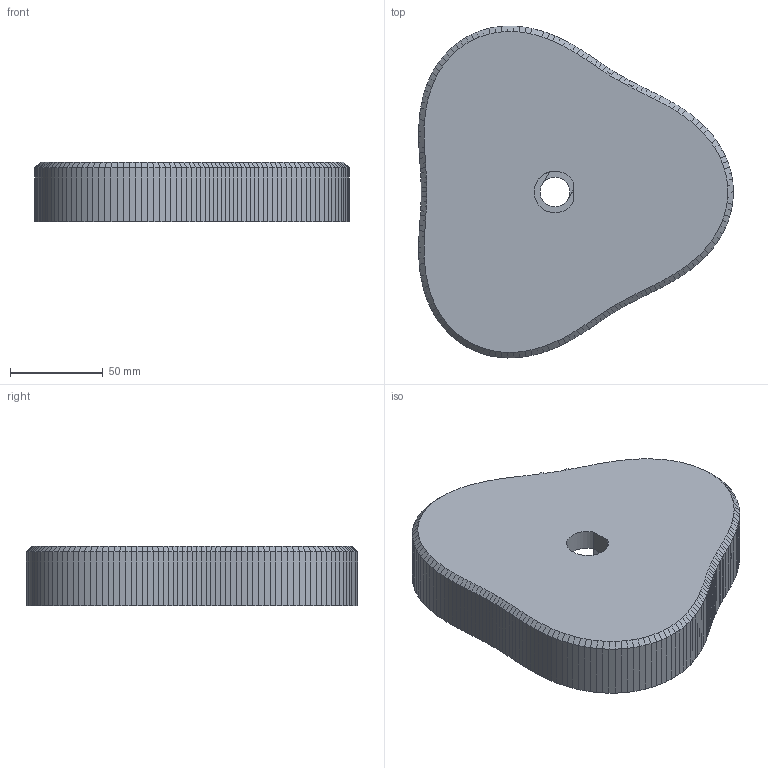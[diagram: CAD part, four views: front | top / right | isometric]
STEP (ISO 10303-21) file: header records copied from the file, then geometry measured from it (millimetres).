
FILE_DESCRIPTION(('Open CASCADE Model'),'2;1');
FILE_NAME('Open CASCADE Shape Model','2026-10-15T22:00:35',('Author'),( 'Open CASCADE'),'Open CASCADE STEP processor 7.9','Open CASCADE 7.9' ,'Unknown');
FILE_SCHEMA(('AUTOMOTIVE_DESIGN { 1 0 10303 214 1 1 1 1 }'));
Length unit declared in the file: millimetre
Products named in the file (1): Open CASCADE STEP translator 7.9 1
Bounding box: 169.36 x 178.64 x 32 mm (x, y, z)
Volume: 153424.7 mm3; surface area: 87705.1 mm2
Topology: 1 solids, 1 shells, 586 faces, 1561 edges, 980 vertices
Faces by surface type: plane 575, cylinder 11
Full cylindrical faces by diameter (mm): 2.6 x3, 7.5 x1, 10 x3, 16 x1, 38 x1
Entity records: 37245 total; most frequent: CARTESIAN_POINT 7216, DIRECTION 5072, LINE 3797, VECTOR 3797, ORIENTED_EDGE 3122, PCURVE 3122, DEFINITIONAL_REPRESENTATION 3122, EDGE_CURVE 1561
